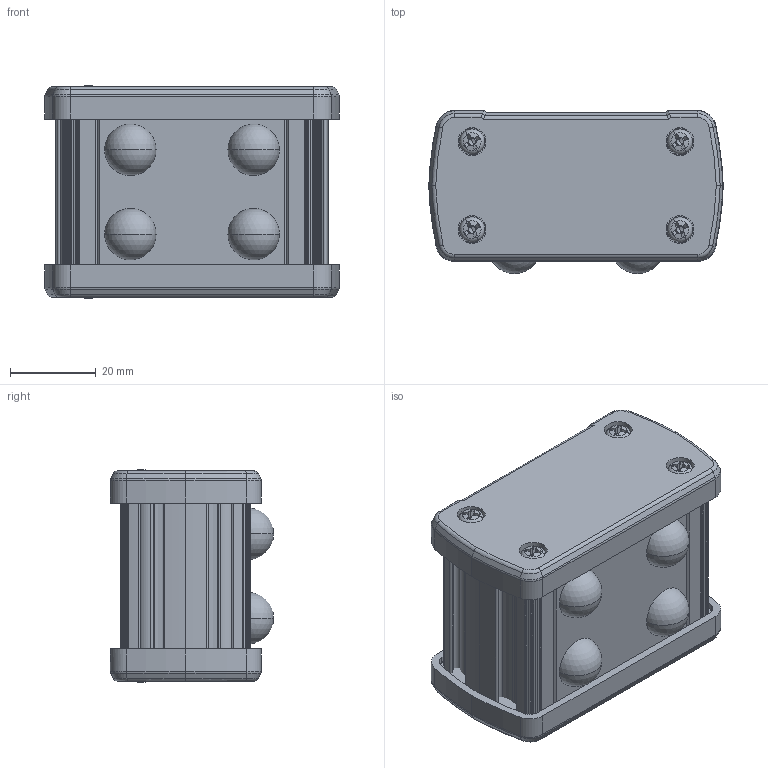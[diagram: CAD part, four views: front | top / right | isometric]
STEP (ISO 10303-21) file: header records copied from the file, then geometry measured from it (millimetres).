
FILE_DESCRIPTION (( 'STEP AP203' ), '1' );
FILE_NAME ('EX-50-01.step', '2017-08-29T18:20:10', ( '' ), ( '' ), 'SwSTEP 2.0', 'SolidWorks 2016', '' );
FILE_SCHEMA (( 'CONFIG_CONTROL_DESIGN' ));
Length unit declared in the file: inch
Products named in the file (7): EX-01W; pan cross head_ks_EX-01S-01; EX-50E_EX-50E-01; EX-01A; EX-50B-52B_EX-50B-01; EX-50-01; EX-50G
Assembly tree (25 placements, depth 2):
  EX-50-01
    EX-50B-52B_EX-50B-01
    EX-50E_EX-50E-01  x2
    EX-50G  x2
    pan cross head_ks_EX-01S-01  x8
    EX-01W  x8
    EX-01A  x4
Bounding box: 68.7 x 38.1 x 49.49 mm (x, y, z)
Volume: 46552.8 mm3; surface area: 42828.2 mm2
Topology: 25 solids, 25 shells, 1324 faces, 3238 edges, 1962 vertices
Faces by surface type: cylinder 504, plane 424, torus 232, cone 112, sphere 52
Entity records: 22265 total; most frequent: CARTESIAN_POINT 4446, DIRECTION 3709, ORIENTED_EDGE 3388, EDGE_CURVE 1694, AXIS2_PLACEMENT_3D 1437, VERTEX_POINT 1051, LINE 835, VECTOR 835
